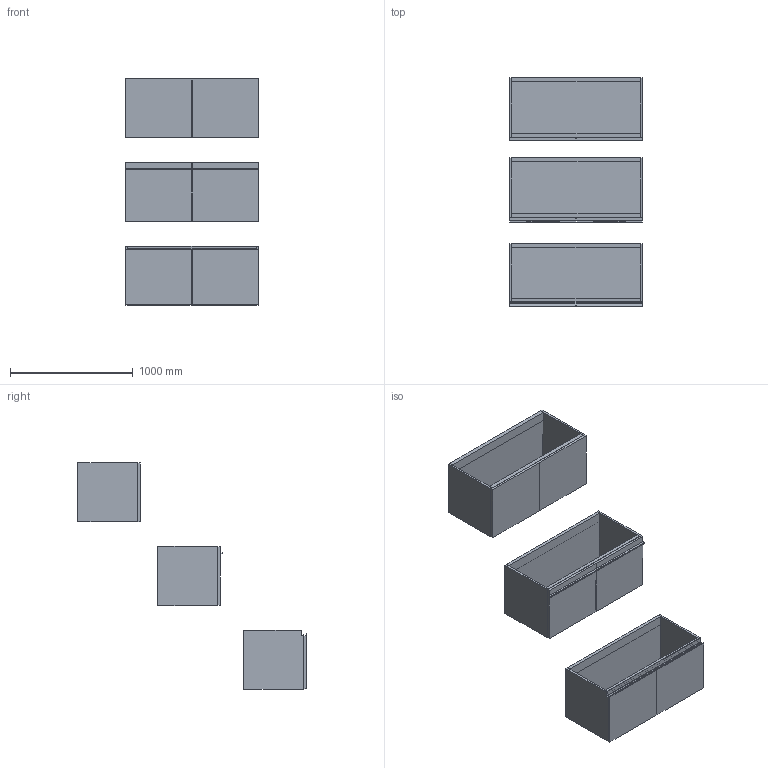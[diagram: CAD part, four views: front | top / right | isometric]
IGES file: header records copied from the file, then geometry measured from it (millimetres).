
Start section: Data from Parasolid IGES Translator 19.0.9, Copyright(c) 2006 Siemens PL M Software. All Rights Reserved.
Global section: file name: noorth-SI-H 48 D 51 W 108_8562.igs; native system: By Siemens PLM Incorporated; preprocessor: XPlus GENERIC/IGES 19.0.9; author: Noname; organization: Noname; date: 20200601.113431; units: metre
Bounding box: 1080 x 1857.1 x 1840.01 mm (x, y, z)
Volume: 88856599.9 mm3; surface area: 13453044.6 mm2
Topology: 27 solids, 27 shells, 264 faces, 566 edges, 336 vertices
Faces by surface type: plane 180, extrusion 32, bspline 32, cylinder 20
